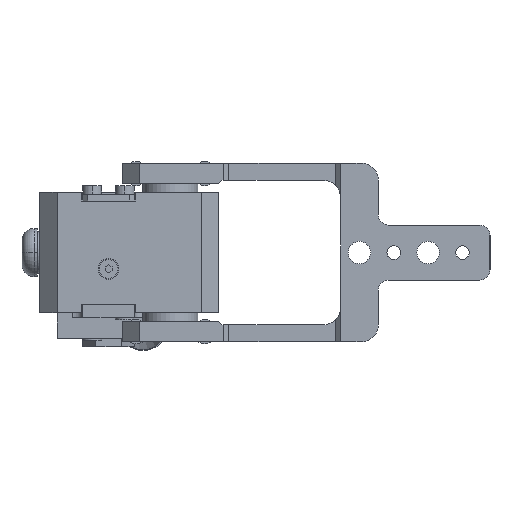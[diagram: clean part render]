
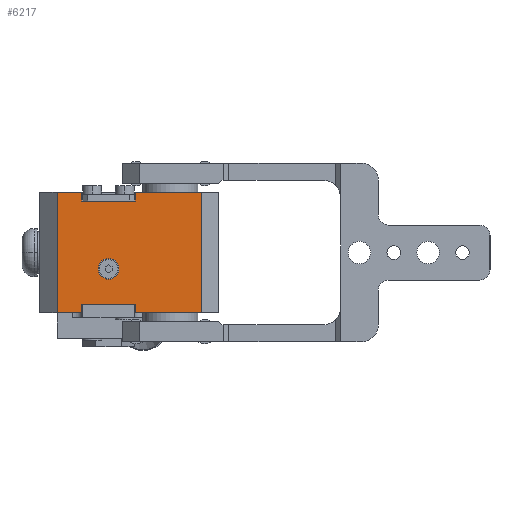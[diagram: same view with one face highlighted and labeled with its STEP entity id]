
A CAD part, left-side view. The second image highlights one B-rep face of the part: STEP entity #6217.
In plain terms, the highlighted planar face has unit normal (-1, 0, 0).
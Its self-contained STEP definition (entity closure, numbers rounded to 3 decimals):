
#12 = DIRECTION ( 'NONE',  ( 0., -1., 0. ) ) ;
#24 = CARTESIAN_POINT ( 'NONE',  ( -28., 33., 17.5 ) ) ;
#40 = LINE ( 'NONE', #24, #10934 ) ;
#166 = DIRECTION ( 'NONE',  ( -1., 0., 0. ) ) ;
#448 = EDGE_CURVE ( 'NONE', #3889, #3740, #11214, .T. ) ;
#546 = ORIENTED_EDGE ( 'NONE', *, *, #6040, .T. ) ;
#567 = CARTESIAN_POINT ( 'NONE',  ( -28., -9., -17.5 ) ) ;
#694 = DIRECTION ( 'NONE',  ( 0., -1., 0. ) ) ;
#710 = CARTESIAN_POINT ( 'NONE',  ( -28., 33., 17.5 ) ) ;
#726 = LINE ( 'NONE', #710, #14902 ) ;
#1295 = ORIENTED_EDGE ( 'NONE', *, *, #7453, .T. ) ;
#1326 = ORIENTED_EDGE ( 'NONE', *, *, #4296, .T. ) ;
#1640 = EDGE_CURVE ( 'NONE', #3565, #4230, #40, .T. ) ;
#1704 = VERTEX_POINT ( 'NONE', #14900 ) ;
#1801 = VERTEX_POINT ( 'NONE', #14084 ) ;
#1989 = CARTESIAN_POINT ( 'NONE',  ( -28., 21., -4.75 ) ) ;
#2034 = VECTOR ( 'NONE', #11182, 1000. ) ;
#2098 = ORIENTED_EDGE ( 'NONE', *, *, #1640, .F. ) ;
#2342 = EDGE_CURVE ( 'NONE', #3565, #3636, #8722, .T. ) ;
#2580 = EDGE_CURVE ( 'NONE', #2936, #3031, #9694, .T. ) ;
#2595 = ORIENTED_EDGE ( 'NONE', *, *, #12342, .F. ) ;
#2936 = VERTEX_POINT ( 'NONE', #3460 ) ;
#3031 = VERTEX_POINT ( 'NONE', #1989 ) ;
#3201 = VERTEX_POINT ( 'NONE', #567 ) ;
#3275 = VERTEX_POINT ( 'NONE', #14832 ) ;
#3460 = CARTESIAN_POINT ( 'NONE',  ( -28., 15., -4.75 ) ) ;
#3499 = EDGE_CURVE ( 'NONE', #3275, #4167, #12289, .T. ) ;
#3565 = VERTEX_POINT ( 'NONE', #11545 ) ;
#3621 = CARTESIAN_POINT ( 'NONE',  ( -28., 25.75, -15. ) ) ;
#3634 = DIRECTION ( 'NONE',  ( 0., -1., 0. ) ) ;
#3636 = VERTEX_POINT ( 'NONE', #10752 ) ;
#3740 = VERTEX_POINT ( 'NONE', #9783 ) ;
#3795 = LINE ( 'NONE', #3621, #5022 ) ;
#3889 = VERTEX_POINT ( 'NONE', #15119 ) ;
#4000 = VERTEX_POINT ( 'NONE', #6845 ) ;
#4064 = VERTEX_POINT ( 'NONE', #6016 ) ;
#4167 = VERTEX_POINT ( 'NONE', #4903 ) ;
#4230 = VERTEX_POINT ( 'NONE', #4427 ) ;
#4296 = EDGE_CURVE ( 'NONE', #4064, #4167, #3795, .T. ) ;
#4427 = CARTESIAN_POINT ( 'NONE',  ( -28., -9., 17.5 ) ) ;
#4727 = EDGE_CURVE ( 'NONE', #4230, #3201, #13850, .T. ) ;
#4825 = ORIENTED_EDGE ( 'NONE', *, *, #448, .F. ) ;
#4903 = CARTESIAN_POINT ( 'NONE',  ( -28., 10.25, -15. ) ) ;
#5022 = VECTOR ( 'NONE', #3634, 1000. ) ;
#5654 = EDGE_CURVE ( 'NONE', #4000, #3889, #726, .T. ) ;
#5958 = EDGE_CURVE ( 'NONE', #1704, #4064, #10856, .T. ) ;
#6016 = CARTESIAN_POINT ( 'NONE',  ( -28., 25.75, -15. ) ) ;
#6040 = EDGE_CURVE ( 'NONE', #4000, #1801, #9386, .T. ) ;
#6217 = ADVANCED_FACE ( 'NONE', ( #11982, #11991 ), #7828, .F. ) ;
#6243 = DIRECTION ( 'NONE',  ( 0., -1., 0. ) ) ;
#6320 = CARTESIAN_POINT ( 'NONE',  ( -28., 33., -17.5 ) ) ;
#6693 = CARTESIAN_POINT ( 'NONE',  ( -28., 18., -4.75 ) ) ;
#6845 = CARTESIAN_POINT ( 'NONE',  ( -28., 33., 17.5 ) ) ;
#7061 = VECTOR ( 'NONE', #8651, 1000. ) ;
#7135 = CIRCLE ( 'NONE', #7511, 3. ) ;
#7426 = EDGE_CURVE ( 'NONE', #3740, #3636, #12736, .T. ) ;
#7453 = EDGE_CURVE ( 'NONE', #3275, #3201, #12003, .T. ) ;
#7480 = DIRECTION ( 'NONE',  ( 0., 1., 0. ) ) ;
#7511 = AXIS2_PLACEMENT_3D ( 'NONE', #6693, #166, #13922 ) ;
#7512 = EDGE_CURVE ( 'NONE', #1801, #1704, #10172, .T. ) ;
#7541 = DIRECTION ( 'NONE',  ( -1., 0., 0. ) ) ;
#7547 = CARTESIAN_POINT ( 'NONE',  ( -28., 18., -4.75 ) ) ;
#7569 = ORIENTED_EDGE ( 'NONE', *, *, #3499, .F. ) ;
#7728 = DIRECTION ( 'NONE',  ( 0., 1., 0. ) ) ;
#7740 = DIRECTION ( 'NONE',  ( 1., 0., 0. ) ) ;
#7821 = CARTESIAN_POINT ( 'NONE',  ( -28., 33., 17.5 ) ) ;
#7828 = PLANE ( 'NONE',  #11408 ) ;
#7924 = AXIS2_PLACEMENT_3D ( 'NONE', #7547, #7541, #7480 ) ;
#7974 = ORIENTED_EDGE ( 'NONE', *, *, #5654, .F. ) ;
#8366 = ORIENTED_EDGE ( 'NONE', *, *, #2342, .T. ) ;
#8651 = DIRECTION ( 'NONE',  ( 0., 0., -1. ) ) ;
#8688 = CARTESIAN_POINT ( 'NONE',  ( -28., 10.25, 25. ) ) ;
#8722 = LINE ( 'NONE', #8688, #7061 ) ;
#9306 = VECTOR ( 'NONE', #9988, 1000. ) ;
#9367 = DIRECTION ( 'NONE',  ( 0., 0., -1. ) ) ;
#9375 = CARTESIAN_POINT ( 'NONE',  ( -28., 33., 17.5 ) ) ;
#9386 = LINE ( 'NONE', #9375, #13145 ) ;
#9409 = ORIENTED_EDGE ( 'NONE', *, *, #5958, .T. ) ;
#9453 = ORIENTED_EDGE ( 'NONE', *, *, #7426, .F. ) ;
#9694 = CIRCLE ( 'NONE', #7924, 3. ) ;
#9783 = CARTESIAN_POINT ( 'NONE',  ( -28., 25.75, 15. ) ) ;
#9988 = DIRECTION ( 'NONE',  ( 0., -1., 0. ) ) ;
#10079 = CARTESIAN_POINT ( 'NONE',  ( -28., 33., -17.5 ) ) ;
#10172 = LINE ( 'NONE', #10079, #9306 ) ;
#10752 = CARTESIAN_POINT ( 'NONE',  ( -28., 10.25, 15. ) ) ;
#10856 = LINE ( 'NONE', #10864, #14010 ) ;
#10864 = CARTESIAN_POINT ( 'NONE',  ( -28., 25.75, -25. ) ) ;
#10871 = DIRECTION ( 'NONE',  ( 0., 0., 1. ) ) ;
#10934 = VECTOR ( 'NONE', #12, 1000. ) ;
#10953 = ORIENTED_EDGE ( 'NONE', *, *, #4727, .F. ) ;
#11182 = DIRECTION ( 'NONE',  ( 0., 0., -1. ) ) ;
#11193 = CARTESIAN_POINT ( 'NONE',  ( -28., 25.75, 25. ) ) ;
#11214 = LINE ( 'NONE', #11193, #2034 ) ;
#11301 = VECTOR ( 'NONE', #12014, 1000. ) ;
#11408 = AXIS2_PLACEMENT_3D ( 'NONE', #7821, #7740, #7728 ) ;
#11545 = CARTESIAN_POINT ( 'NONE',  ( -28., 10.25, 17.5 ) ) ;
#11982 = FACE_OUTER_BOUND ( 'NONE', #12877, .T. ) ;
#11991 = FACE_BOUND ( 'NONE', #12887, .T. ) ;
#12003 = LINE ( 'NONE', #6320, #12353 ) ;
#12014 = DIRECTION ( 'NONE',  ( 0., 0., 1. ) ) ;
#12030 = CARTESIAN_POINT ( 'NONE',  ( -28., 10.25, -25. ) ) ;
#12289 = LINE ( 'NONE', #12030, #11301 ) ;
#12342 = EDGE_CURVE ( 'NONE', #3031, #2936, #7135, .T. ) ;
#12353 = VECTOR ( 'NONE', #6243, 1000. ) ;
#12386 = CARTESIAN_POINT ( 'NONE',  ( -28., 25.75, 15. ) ) ;
#12470 = DIRECTION ( 'NONE',  ( 0., -1., 0. ) ) ;
#12617 = ORIENTED_EDGE ( 'NONE', *, *, #2580, .F. ) ;
#12736 = LINE ( 'NONE', #12386, #13414 ) ;
#12758 = VECTOR ( 'NONE', #13831, 1000. ) ;
#12877 = EDGE_LOOP ( 'NONE', ( #8366, #9453, #4825, #7974, #546, #14881, #9409, #1326, #7569, #1295, #10953, #2098 ) ) ;
#12887 = EDGE_LOOP ( 'NONE', ( #2595, #12617 ) ) ;
#13145 = VECTOR ( 'NONE', #9367, 1000. ) ;
#13414 = VECTOR ( 'NONE', #12470, 1000. ) ;
#13831 = DIRECTION ( 'NONE',  ( 0., 0., -1. ) ) ;
#13841 = CARTESIAN_POINT ( 'NONE',  ( -28., -9., 17.5 ) ) ;
#13850 = LINE ( 'NONE', #13841, #12758 ) ;
#13922 = DIRECTION ( 'NONE',  ( 0., 1., 0. ) ) ;
#14010 = VECTOR ( 'NONE', #10871, 1000. ) ;
#14084 = CARTESIAN_POINT ( 'NONE',  ( -28., 33., -17.5 ) ) ;
#14832 = CARTESIAN_POINT ( 'NONE',  ( -28., 10.25, -17.5 ) ) ;
#14881 = ORIENTED_EDGE ( 'NONE', *, *, #7512, .T. ) ;
#14900 = CARTESIAN_POINT ( 'NONE',  ( -28., 25.75, -17.5 ) ) ;
#14902 = VECTOR ( 'NONE', #694, 1000. ) ;
#15119 = CARTESIAN_POINT ( 'NONE',  ( -28., 25.75, 17.5 ) ) ;
